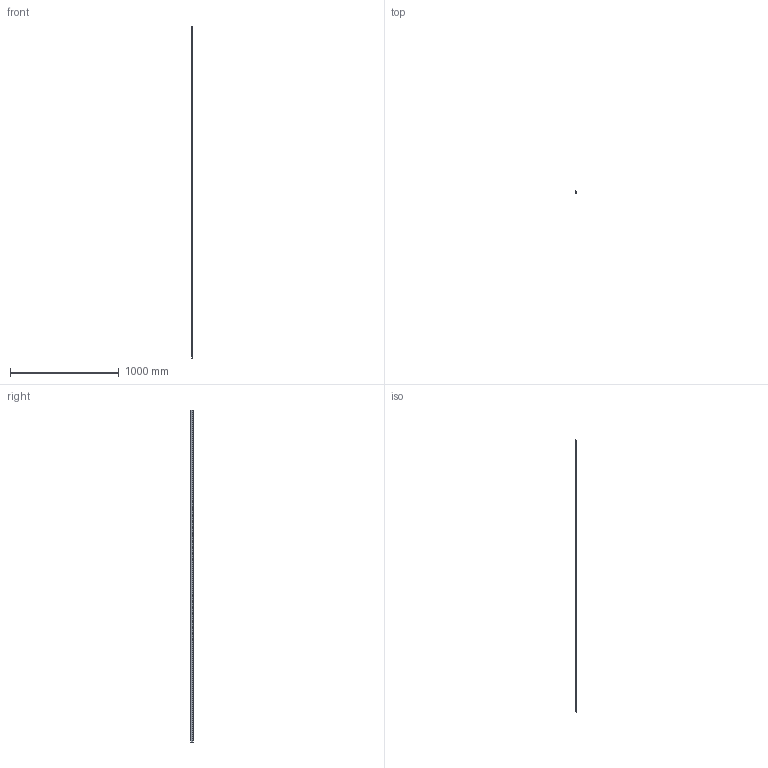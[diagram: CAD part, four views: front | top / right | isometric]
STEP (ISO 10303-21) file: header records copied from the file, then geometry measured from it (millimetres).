
FILE_DESCRIPTION (( 'STEP AP214' ), '1' );
FILE_NAME ('M16G.STEP', '2020-02-25T15:24:36', ( '' ), ( '' ), 'SwSTEP 2.0', 'SolidWorks 2018', '' );
FILE_SCHEMA (( 'AUTOMOTIVE_DESIGN' ));
Length unit declared in the file: inch
Products named in the file (1): M16G
Bounding box: 3.75 x 22.03 x 3048 mm (x, y, z)
Volume: 88735.4 mm3; surface area: 352506.9 mm2
Topology: 1 solids, 1 shells, 18 faces, 48 edges, 32 vertices
Faces by surface type: plane 12, cylinder 6
Entity records: 604 total; most frequent: CARTESIAN_POINT 99, DIRECTION 98, ORIENTED_EDGE 96, EDGE_CURVE 48, VECTOR 36, LINE 36, VERTEX_POINT 32, AXIS2_PLACEMENT_3D 31
